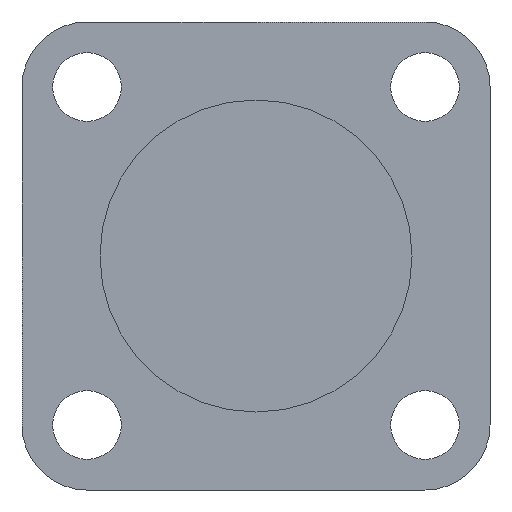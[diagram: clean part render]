
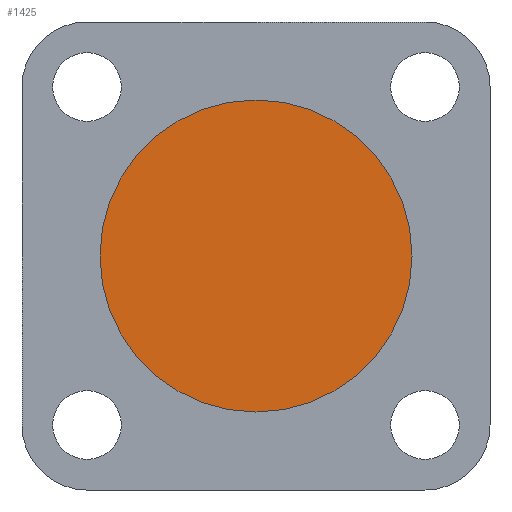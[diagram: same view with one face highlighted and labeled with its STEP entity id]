
A CAD part, left-side view. The second image highlights one B-rep face of the part: STEP entity #1425.
In plain terms, the highlighted planar face has unit normal (-1, 0, 0).
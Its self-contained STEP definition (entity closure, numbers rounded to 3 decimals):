
#87 = DIRECTION ( 'NONE',  ( -1., 0., 0. ) ) ;
#183 = CARTESIAN_POINT ( 'NONE',  ( 7., 0., 0. ) ) ;
#219 = DIRECTION ( 'NONE',  ( 0., 0., 1. ) ) ;
#264 = ORIENTED_EDGE ( 'NONE', *, *, #1016, .T. ) ;
#340 = VERTEX_POINT ( 'NONE', #1309 ) ;
#419 = CIRCLE ( 'NONE', #1791, 15. ) ;
#523 = DIRECTION ( 'NONE',  ( 0., 0., 1. ) ) ;
#649 = ORIENTED_EDGE ( 'NONE', *, *, #1475, .T. ) ;
#672 = CARTESIAN_POINT ( 'NONE',  ( 7., 0., 0. ) ) ;
#764 = PLANE ( 'NONE',  #2368 ) ;
#851 = DIRECTION ( 'NONE',  ( 0., 0., 1. ) ) ;
#1016 = EDGE_CURVE ( 'NONE', #1724, #340, #419, .T. ) ;
#1045 = CARTESIAN_POINT ( 'NONE',  ( 7., 15., 0. ) ) ;
#1309 = CARTESIAN_POINT ( 'NONE',  ( 7., 0., 15. ) ) ;
#1423 = EDGE_LOOP ( 'NONE', ( #649, #264 ) ) ;
#1425 = ADVANCED_FACE ( 'NONE', ( #2031 ), #764, .T. ) ;
#1475 = EDGE_CURVE ( 'NONE', #340, #1724, #2282, .T. ) ;
#1706 = AXIS2_PLACEMENT_3D ( 'NONE', #672, #87, #523 ) ;
#1724 = VERTEX_POINT ( 'NONE', #2523 ) ;
#1782 = DIRECTION ( 'NONE',  ( -1., 0., 0. ) ) ;
#1791 = AXIS2_PLACEMENT_3D ( 'NONE', #183, #1782, #219 ) ;
#1831 = DIRECTION ( 'NONE',  ( -1., 0., 0. ) ) ;
#2031 = FACE_OUTER_BOUND ( 'NONE', #1423, .T. ) ;
#2282 = CIRCLE ( 'NONE', #1706, 15. ) ;
#2368 = AXIS2_PLACEMENT_3D ( 'NONE', #1045, #1831, #851 ) ;
#2523 = CARTESIAN_POINT ( 'NONE',  ( 7., 0., -15. ) ) ;
